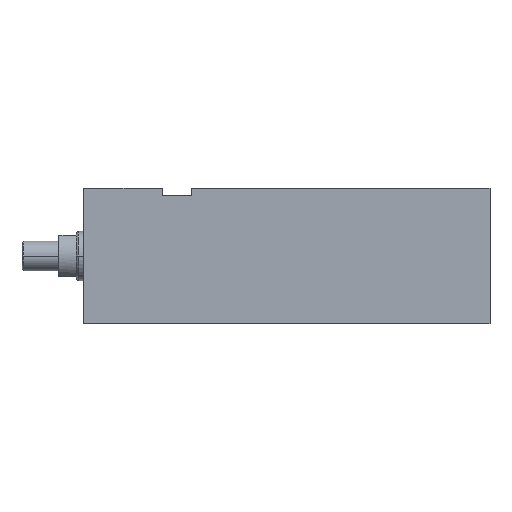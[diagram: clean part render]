
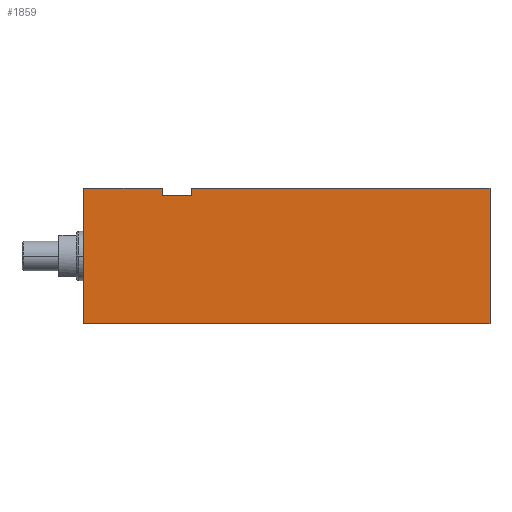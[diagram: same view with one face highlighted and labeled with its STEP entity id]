
A CAD part, left-side view. The second image highlights one B-rep face of the part: STEP entity #1859.
In plain terms, the highlighted planar face has unit normal (-1, 0, 0).
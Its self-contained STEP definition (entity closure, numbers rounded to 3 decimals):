
#8 = EDGE_CURVE ( 'NONE', #3135, #2943, #510, .T. ) ;
#58 = CARTESIAN_POINT ( 'NONE',  ( -37.5, 133., 24.5 ) ) ;
#203 = CARTESIAN_POINT ( 'NONE',  ( -37.5, 165., 27.5 ) ) ;
#208 = CARTESIAN_POINT ( 'NONE',  ( -37.5, 65., 27.5 ) ) ;
#227 = DIRECTION ( 'NONE',  ( 0., -1., 0. ) ) ;
#283 = VERTEX_POINT ( 'NONE', #2242 ) ;
#395 = FACE_OUTER_BOUND ( 'NONE', #1411, .T. ) ;
#406 = LINE ( 'NONE', #418, #2782 ) ;
#418 = CARTESIAN_POINT ( 'NONE',  ( -37.5, 65., -27.5 ) ) ;
#433 = DIRECTION ( 'NONE',  ( 0., 0., 1. ) ) ;
#450 = CARTESIAN_POINT ( 'NONE',  ( -37.5, 121., 24.5 ) ) ;
#458 = ORIENTED_EDGE ( 'NONE', *, *, #2132, .F. ) ;
#464 = DIRECTION ( 'NONE',  ( 0., -1., 0. ) ) ;
#510 = LINE ( 'NONE', #2763, #1078 ) ;
#540 = VERTEX_POINT ( 'NONE', #2544 ) ;
#635 = CARTESIAN_POINT ( 'NONE',  ( -37.5, 133., 24.5 ) ) ;
#644 = CARTESIAN_POINT ( 'NONE',  ( -37.5, 0., -27.5 ) ) ;
#656 = VERTEX_POINT ( 'NONE', #1278 ) ;
#668 = CARTESIAN_POINT ( 'NONE',  ( -37.5, 0., -27.5 ) ) ;
#706 = VECTOR ( 'NONE', #1011, 1000. ) ;
#749 = DIRECTION ( 'NONE',  ( 0., 0., 1. ) ) ;
#752 = VECTOR ( 'NONE', #749, 1000. ) ;
#888 = DIRECTION ( 'NONE',  ( 0., 0., 1. ) ) ;
#946 = CARTESIAN_POINT ( 'NONE',  ( -37.5, 165., -27.5 ) ) ;
#984 = CARTESIAN_POINT ( 'NONE',  ( -37.5, 121., 24.5 ) ) ;
#1006 = EDGE_CURVE ( 'NONE', #3036, #540, #3058, .T. ) ;
#1011 = DIRECTION ( 'NONE',  ( 0., -1., 0. ) ) ;
#1025 = VERTEX_POINT ( 'NONE', #203 ) ;
#1078 = VECTOR ( 'NONE', #2206, 1000. ) ;
#1086 = LINE ( 'NONE', #208, #2900 ) ;
#1098 = ORIENTED_EDGE ( 'NONE', *, *, #2368, .F. ) ;
#1147 = CARTESIAN_POINT ( 'NONE',  ( -37.5, 65., 27.5 ) ) ;
#1174 = ORIENTED_EDGE ( 'NONE', *, *, #1006, .F. ) ;
#1192 = EDGE_CURVE ( 'NONE', #3135, #3036, #2657, .T. ) ;
#1278 = CARTESIAN_POINT ( 'NONE',  ( -37.5, 165., -27.5 ) ) ;
#1301 = LINE ( 'NONE', #946, #1944 ) ;
#1377 = LINE ( 'NONE', #644, #752 ) ;
#1411 = EDGE_LOOP ( 'NONE', ( #1780, #1174, #3059, #1707, #1098, #458, #2316, #1632 ) ) ;
#1632 = ORIENTED_EDGE ( 'NONE', *, *, #2095, .T. ) ;
#1707 = ORIENTED_EDGE ( 'NONE', *, *, #8, .T. ) ;
#1737 = LINE ( 'NONE', #1147, #3088 ) ;
#1780 = ORIENTED_EDGE ( 'NONE', *, *, #2784, .F. ) ;
#1859 = ADVANCED_FACE ( 'NONE', ( #395 ), #2953, .F. ) ;
#1903 = CARTESIAN_POINT ( 'NONE',  ( -37.5, 133., 27.5 ) ) ;
#1944 = VECTOR ( 'NONE', #888, 1000. ) ;
#2031 = EDGE_CURVE ( 'NONE', #656, #2762, #406, .T. ) ;
#2095 = EDGE_CURVE ( 'NONE', #2762, #283, #1377, .T. ) ;
#2132 = EDGE_CURVE ( 'NONE', #656, #1025, #1301, .T. ) ;
#2206 = DIRECTION ( 'NONE',  ( 0., 0., 1. ) ) ;
#2242 = CARTESIAN_POINT ( 'NONE',  ( -37.5, 0., 27.5 ) ) ;
#2316 = ORIENTED_EDGE ( 'NONE', *, *, #2031, .T. ) ;
#2368 = EDGE_CURVE ( 'NONE', #1025, #2943, #1086, .T. ) ;
#2402 = VECTOR ( 'NONE', #433, 1000. ) ;
#2474 = DIRECTION ( 'NONE',  ( 1., 0., 0. ) ) ;
#2544 = CARTESIAN_POINT ( 'NONE',  ( -37.5, 121., 27.5 ) ) ;
#2657 = LINE ( 'NONE', #635, #706 ) ;
#2702 = AXIS2_PLACEMENT_3D ( 'NONE', #2707, #2474, #2718 ) ;
#2707 = CARTESIAN_POINT ( 'NONE',  ( -37.5, 65., -27.5 ) ) ;
#2718 = DIRECTION ( 'NONE',  ( 0., 0., -1. ) ) ;
#2762 = VERTEX_POINT ( 'NONE', #668 ) ;
#2763 = CARTESIAN_POINT ( 'NONE',  ( -37.5, 133., 24.5 ) ) ;
#2782 = VECTOR ( 'NONE', #464, 1000. ) ;
#2784 = EDGE_CURVE ( 'NONE', #540, #283, #1737, .T. ) ;
#2900 = VECTOR ( 'NONE', #227, 1000. ) ;
#2943 = VERTEX_POINT ( 'NONE', #1903 ) ;
#2953 = PLANE ( 'NONE',  #2702 ) ;
#3036 = VERTEX_POINT ( 'NONE', #984 ) ;
#3058 = LINE ( 'NONE', #450, #2402 ) ;
#3059 = ORIENTED_EDGE ( 'NONE', *, *, #1192, .F. ) ;
#3088 = VECTOR ( 'NONE', #3105, 1000. ) ;
#3105 = DIRECTION ( 'NONE',  ( 0., -1., 0. ) ) ;
#3135 = VERTEX_POINT ( 'NONE', #58 ) ;
